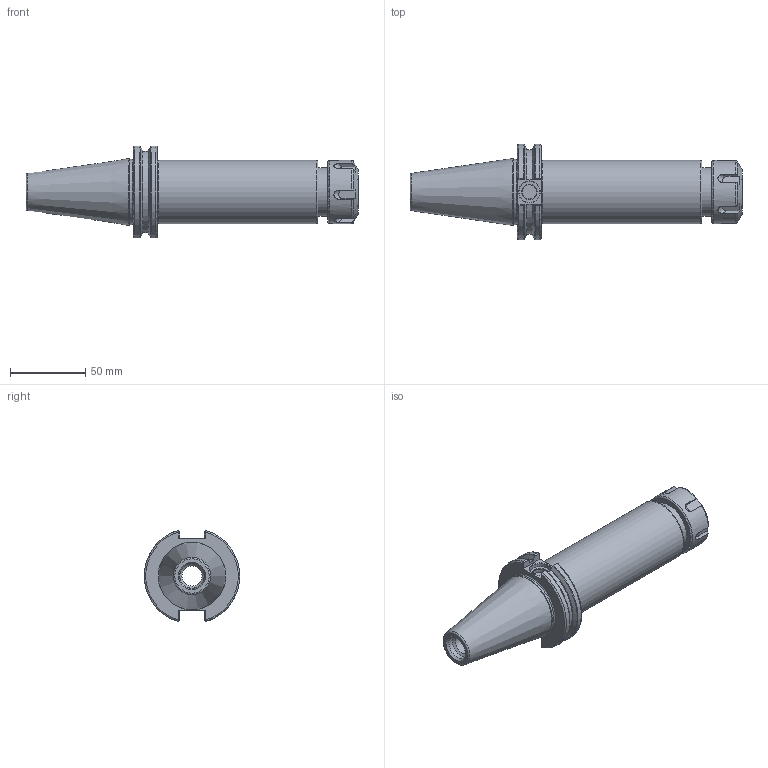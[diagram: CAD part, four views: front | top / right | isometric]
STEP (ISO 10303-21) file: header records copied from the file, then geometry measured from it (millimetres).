
FILE_DESCRIPTION(/* description */ (''),/* implementation_level */ '2;1');
FILE_NAME(/* name */ 'I:\2.客户确认模型及简图\2021.05.02---美国HAAS\CAT40-ER25-152.4示意图.stp',/* time_stamp */ '2021-05-02T13:07:00+08:00',/* author */ ('Administrator'),/* organization */ (''),/* preprocessor_version */ 'ST-DEVELOPER v18.1',/* originating_system */ 'Autodesk Inventor 2021',/* authorisation */ '');
FILE_SCHEMA (('AUTOMOTIVE_DESIGN { 1 0 10303 214 3 1 1 }'));
Length unit declared in the file: millimetre
Products named in the file (3): CAT40-ER25-152.4示意图; CAT40-ER25-152.4; ER25UM压帽
Assembly tree (2 placements, depth 2):
  CAT40-ER25-152.4示意图
    CAT40-ER25-152.4
    ER25UM压帽
Bounding box: 220.65 x 63.27 x 60.92 mm (x, y, z)
Volume: 243588.4 mm3; surface area: 48448.3 mm2
Topology: 2 solids, 2 shells, 151 faces, 425 edges, 289 vertices
Faces by surface type: plane 62, torus 24, cylinder 23, bspline 22, cone 20
Full cylindrical faces by diameter (mm): 9.5 x1, 13.386 x1, 14 x1, 16.281 x1, 16.376 x1, 18.3 x1, 20.7 x1, 25.7 x1, 29 x1, 30 x1, 30.376 x1, 32 x1, 32.5 x1, 42 x2, 43.5 x1
Entity records: 5919 total; most frequent: CARTESIAN_POINT 2024, ORIENTED_EDGE 850, DIRECTION 758, EDGE_CURVE 425, AXIS2_PLACEMENT_3D 300, VERTEX_POINT 289, EDGE_LOOP 166, CIRCLE 166
